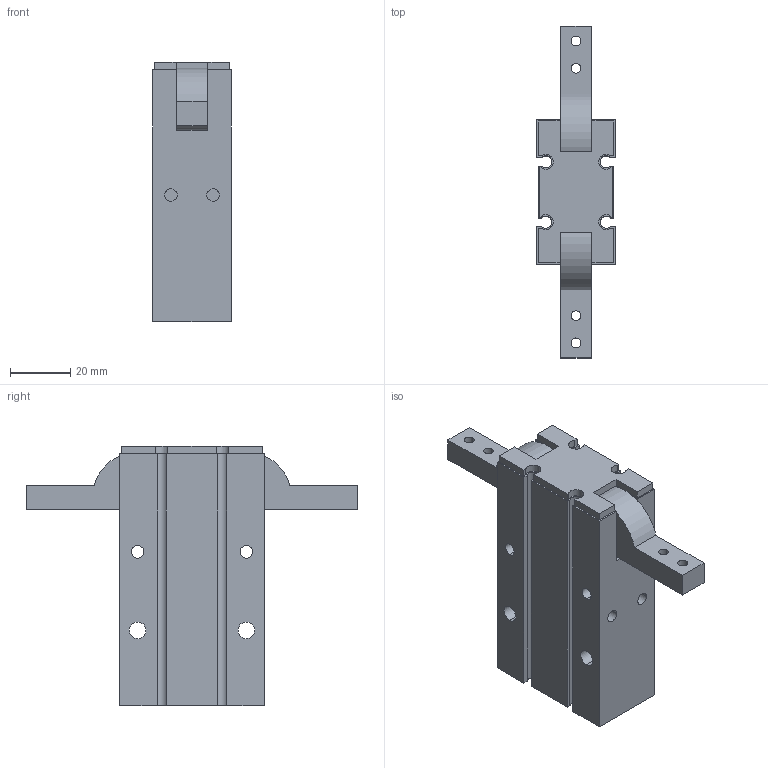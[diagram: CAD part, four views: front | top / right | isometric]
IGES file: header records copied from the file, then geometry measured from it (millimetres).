
Global section: file name: No Iges File Name specified; native system: AutoDesk Inventor R11.0; preprocessor: AutoDesk Inventor Iges Exporter R11.0; author: No Author specified; organization: No Organization specified; date: 20070226.140156; units: millimetre
Bounding box: 26 x 110 x 86 mm (x, y, z)
Volume: 97098.9 mm3; surface area: 27595.4 mm2
Topology: 3 solids, 3 shells, 122 faces, 326 edges, 216 vertices
Faces by surface type: plane 64, bspline 34, revolution 16, cylinder 8
